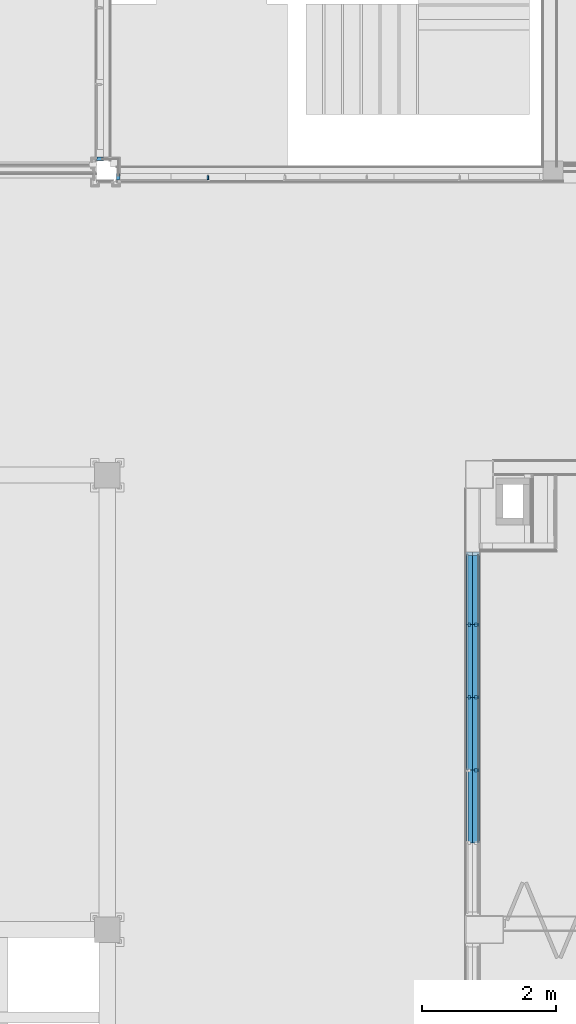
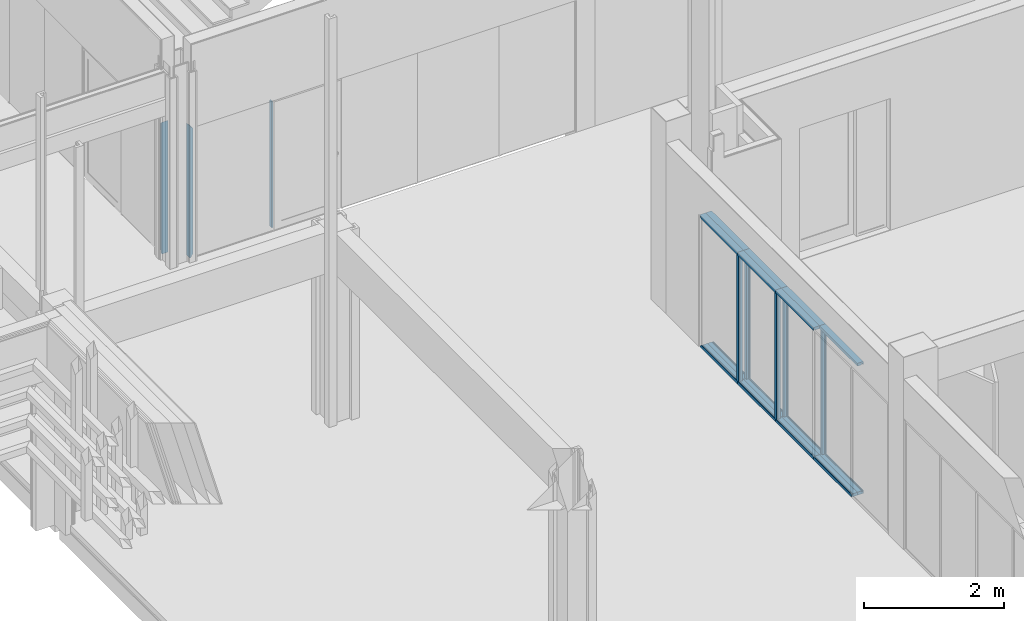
# One storey, part 3 of 139: 23 members, 4 elements without a shape of their own.
"""IFC2X3 building model written with IfcOpenShell, lengths in millimetres."""

from ifc_helpers import new_model, entity, si_unit, converted_unit, derived_unit, money_unit, direction, frame, origin_with_axes, place, context, subcontext, project, spatial, faceted_brep, source, transform, mapped, material, type_object, element, aggregate, save


model = new_model("IFC2X3")

# Units and contexts
model_context = context("Model", 3, precision=0.01, world=origin_with_axes(), true_north=direction((0.0, 1.0)))
body_context = subcontext(model_context, "Body", "Model", "MODEL_VIEW")
ifc_project = project(units=[si_unit("LENGTHUNIT", "METRE", prefix="MILLI"), si_unit("AREAUNIT", "SQUARE_METRE"), si_unit("VOLUMEUNIT", "CUBIC_METRE"), converted_unit("PLANEANGLEUNIT", "DEGREE", entity("IfcPlaneAngleMeasure", 0.0174532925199), si_unit("PLANEANGLEUNIT", "RADIAN"), dimensions=[0, 0, 0, 0, 0, 0, 0]), money_unit("EUR"), converted_unit("TIMEUNIT", "Year", entity("IfcTimeMeasure", 31556926.0), si_unit("TIMEUNIT", "SECOND"), dimensions=[0, 0, 1, 0, 0, 0, 0]), si_unit("MASSUNIT", "GRAM", prefix="KILO"), si_unit("THERMODYNAMICTEMPERATUREUNIT", "DEGREE_CELSIUS"), si_unit("LUMINOUSINTENSITYUNIT", "LUMEN"), si_unit("ENERGYUNIT", "JOULE", prefix="MEGA"), derived_unit("THERMALCONDUCTANCEUNIT", [(si_unit("POWERUNIT", "WATT"), 1), (si_unit("LENGTHUNIT", "METRE"), -1), (si_unit("THERMODYNAMICTEMPERATUREUNIT", "KELVIN"), -1)]), derived_unit("SPECIFICHEATCAPACITYUNIT", [(si_unit("ENERGYUNIT", "JOULE"), 1), (si_unit("MASSUNIT", "GRAM", prefix="KILO"), -1), (si_unit("THERMODYNAMICTEMPERATUREUNIT", "KELVIN"), -1)]), derived_unit("MASSDENSITYUNIT", [(si_unit("MASSUNIT", "GRAM", prefix="KILO"), 1), (si_unit("VOLUMEUNIT", "CUBIC_METRE"), -1)])], contexts=[model_context])

# Site, building, storey
site_placement = place(None, origin_with_axes())
site = spatial("IfcSite", under=ifc_project, at=site_placement, Name="Kolde pst 67a", CompositionType="ELEMENT")
building_placement = place(site_placement, origin_with_axes())
building = spatial("IfcBuilding", under=site, at=building_placement, Name="Riigigümnaasium", CompositionType="ELEMENT")
storey_placement = place(building_placement, frame((0.0, 0.0, 4600.0), z_axis=(0.0, 0.0, 1.0), x_axis=(1.0, 0.0, 0.0)))
storey = spatial("IfcBuildingStorey", under=building, at=storey_placement, Name="2. korrus", CompositionType="ELEMENT", Elevation=4600.0)

# Curtain wall, member
curtain_wall_type = type_object("IfcCurtainWallType", Name="Curtain Wall Type", PredefinedType="NOTDEFINED")
curtain_wall_1_placement = place(storey_placement, frame((52619.9941222, 32759.7635899, -0.000120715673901), z_axis=(0.0, 0.0, 1.0), x_axis=(1.0, 0.0, 0.0)))
curtain_wall_1 = element("IfcCurtainWall", 1, at=curtain_wall_1_placement, inside=storey, type_object=curtain_wall_type, Name="KLAASSEIN")
ifc_material_1 = material(Name="_GENEERILINE MATERJAL")
member_type_1 = type_object("IfcMemberType", Name="Boundary Frame 50 x 100", PredefinedType="MEMBER")
shared_shape_1 = source(origin_with_axes(), body_context, "Body", "Brep", [
    faceted_brep([(50.0, -10.0, 50.0), (50.0, -10.0, 2250.0), (50.0, -100.0, 2250.0), (50.0, -100.0, 50.0), (25.0, -10.0, 2275.0), (25.0, -10.0, 25.0), (25.0, 0.0, 2275.0), (0.0, 0.0, 2300.0), (0.0, -100.0, 2300.0), (0.0, -100.0, 0.0), (0.0, 0.0, 0.0), (25.0, 0.0, 25.0)], [[[0, 1, 2, 3]], [[4, 1, 0, 5]], [[4, 6, 7, 8, 2, 1]], [[2, 8, 9, 3]], [[5, 0, 3, 9, 10, 11]], [[11, 6, 4, 5]], [[6, 11, 10, 7]], [[8, 7, 10, 9]]]),
])
member_1_placement = place(curtain_wall_1_placement, frame((0.0, -3835.89186022, 0.0), z_axis=(0.0, 0.0, 1.0), x_axis=(0.0, 1.0, 0.0)))
member_1 = element("IfcMember", 2, at=member_1_placement, type_object=member_type_1, material=ifc_material_1, Name="RF RAAM SERV-597", ObjectType="MEMBER", context=body_context, shape_type="MappedRepresentation", body=[
    mapped(shared_shape_1, transform((0.0, 0.0, 0.0))),
])
aggregate(curtain_wall_1, [member_1])

# Curtain wall, members
curtain_wall_2_placement = place(storey_placement, frame((58309.948762, 21457.499953, -9.60191526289e-05), z_axis=(0.0, 0.0, 1.0), x_axis=(1.0, 0.0, 0.0)))
curtain_wall_2 = element("IfcCurtainWall", 3, at=curtain_wall_2_placement, inside=storey, type_object=curtain_wall_type, Name="KLAASSEIN")
ifc_material_2 = material(Name="_METALL - alumiinium")
member_type_2 = type_object("IfcMemberType", Name="Mullion Frame 50 x 70", PredefinedType="MEMBER")
shared_shape_2 = source(origin_with_axes(), body_context, "Body", "Brep", [
    faceted_brep([(5.0, -10.0, 2250.00004495), (5.0, 10.0, 2250.00004495), (25.0, 10.0, 2250.00004495), (25.0, 20.0, 2250.00004495), (-25.0, 20.0, 2250.00004495), (-25.0, 10.0, 2250.00004495), (-5.0, 10.0, 2250.00004495), (-5.0, -10.0, 2250.00004495), (-25.0, -10.0, 2250.00004495), (-25.0, -50.0, 2250.00004495), (25.0, -50.0, 2250.00004495), (25.0, -10.0, 2250.00004495), (5.0, -10.0, 50.0), (5.0, 10.0, 50.0), (25.0, 10.0, 50.0), (25.0, 20.0, 50.0), (-25.0, 20.0, 50.0), (-25.0, 10.0, 50.0), (-5.0, 10.0, 50.0), (-5.0, -10.0, 50.0), (-25.0, -10.0, 50.0), (-25.0, -50.0, 50.0), (25.0, -50.0, 50.0), (25.0, -10.0, 50.0)], [[[0, 1, 2, 3, 4, 5, 6, 7, 8, 9, 10, 11]], [[0, 12, 13, 1]], [[1, 13, 14, 2]], [[14, 15, 3, 2]], [[4, 3, 15, 16]], [[17, 5, 4, 16]], [[5, 17, 18, 6]], [[7, 6, 18, 19]], [[8, 7, 19, 20]], [[8, 20, 21, 9]], [[10, 9, 21, 22]], [[11, 10, 22, 23]], [[11, 23, 12, 0]], [[13, 12, 23, 22, 21, 20, 19, 18, 17, 16, 15, 14]]]),
])
member_2_placement = place(curtain_wall_2_placement, frame((5.93163562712e-05, 542.5, 0.0), z_axis=(0.0, 0.0, 1.0), x_axis=(1.09338902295e-07, 1.0, 0.0)))
member_2 = element("IfcMember", 4, at=member_2_placement, type_object=member_type_2, material=ifc_material_2, Name="RF RAAM VERT-282", ObjectType="MEMBER", context=body_context, shape_type="MappedRepresentation", body=[
    mapped(shared_shape_2, transform((0.0, 0.0, 0.0), x_axis=(-1.0, 0.0, 0.0), y_axis=(0.0, -1.0, 0.0), z_axis=(0.0, 0.0, 1.0))),
])
member_3_placement = place(curtain_wall_2_placement, frame((-5.93163491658e-05, -542.5, 0.0), z_axis=(0.0, 0.0, 1.0), x_axis=(1.09338902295e-07, 1.0, 0.0)))
member_3 = element("IfcMember", 5, at=member_3_placement, type_object=member_type_2, material=ifc_material_2, Name="RF RAAM VERT-283", ObjectType="MEMBER", context=body_context, shape_type="MappedRepresentation", body=[
    mapped(shared_shape_2, transform((0.0, 0.0, 0.0), x_axis=(-1.0, 0.0, 0.0), y_axis=(0.0, -1.0, 0.0), z_axis=(0.0, 0.0, 1.0))),
])
member_4_placement = place(curtain_wall_2_placement, frame((-0.000177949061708, -1627.5, 0.0), z_axis=(0.0, 0.0, 1.0), x_axis=(1.09338902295e-07, 1.0, 0.0)))
member_4 = element("IfcMember", 6, at=member_4_placement, type_object=member_type_2, material=ifc_material_2, Name="RF RAAM VERT-284", ObjectType="MEMBER", context=body_context, shape_type="MappedRepresentation", body=[
    mapped(shared_shape_2, transform((0.0, 0.0, 0.0), x_axis=(-1.0, 0.0, 0.0), y_axis=(0.0, -1.0, 0.0), z_axis=(0.0, 0.0, 1.0))),
])

curtain_wall_3_placement = place(storey_placement, frame((58149.948335, 21457.4999721, -5.87247752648e-05), z_axis=(0.0, 0.0, 1.0), x_axis=(1.0, 0.0, 0.0)))
curtain_wall_3 = element("IfcCurtainWall", 7, at=curtain_wall_3_placement, inside=storey, type_object=curtain_wall_type, Name="KLAASSEIN")
shared_shape_3 = source(origin_with_axes(), body_context, "Body", "Brep", [
    faceted_brep([(30.0, -10.0, 1085.0), (30.0, 10.0, 1085.0), (50.0, 10.0, 1085.0), (50.0, 20.0, 1085.0), (0.0, 20.0, 1085.0), (0.0, -80.0, 1085.0), (50.0, -80.0, 1085.0), (50.0, -10.0, 1085.0), (30.0, -10.0, 0.0), (30.0, 10.0, 0.0), (50.0, 10.0, 0.0), (50.0, 20.0, 0.0), (0.0, 20.0, 0.0), (0.0, -80.0, 0.0), (50.0, -80.0, 0.0), (50.0, -10.0, 0.0)], [[[0, 1, 2, 3, 4, 5, 6, 7]], [[1, 0, 8, 9]], [[10, 2, 1, 9]], [[2, 10, 11, 3]], [[12, 4, 3, 11]], [[13, 5, 4, 12]], [[14, 6, 5, 13]], [[15, 7, 6, 14]], [[0, 7, 15, 8]], [[8, 15, 14, 13, 12, 11, 10, 9]]]),
])
member_5_placement = place(curtain_wall_3_placement, frame((-1.69167435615e-06, 542.5, 0.0), z_axis=(3.11830029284e-09, -1.0, 0.0), x_axis=(0.0, 0.0, 1.0)))
member_5 = element("IfcMember", 8, at=member_5_placement, type_object=member_type_1, material=ifc_material_2, Name="RF RAAM SERV-662", ObjectType="MEMBER", context=body_context, shape_type="MappedRepresentation", body=[
    mapped(shared_shape_3, transform((0.0, 0.0, 0.0))),
])
member_6_placement = place(curtain_wall_3_placement, frame((1.69168146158e-06, -542.5, 0.0), z_axis=(3.11830684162e-09, -1.0, 0.0), x_axis=(0.0, 0.0, 1.0)))
member_6 = element("IfcMember", 9, at=member_6_placement, type_object=member_type_1, material=ifc_material_2, Name="RF RAAM SERV-663", ObjectType="MEMBER", context=body_context, shape_type="MappedRepresentation", body=[
    mapped(shared_shape_3, transform((0.0, 0.0, 0.0))),
])
member_7_placement = place(curtain_wall_3_placement, frame((5.07504438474e-06, -1627.5, 0.0), z_axis=(3.11830029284e-09, -1.0, 0.0), x_axis=(0.0, 0.0, 1.0)))
member_7 = element("IfcMember", 10, at=member_7_placement, type_object=member_type_1, material=ifc_material_2, Name="RF RAAM SERV-664", ObjectType="MEMBER", context=body_context, shape_type="MappedRepresentation", body=[
    mapped(shared_shape_3, transform((0.0, 0.0, 0.0))),
])

# Member
member_8_placement = place(curtain_wall_2_placement, frame((5.93163562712e-05, 542.5, 2300.00014663), z_axis=(-1.0933889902e-07, -1.0, 0.0), x_axis=(0.0, 0.0, 1.0)))
member_8 = element("IfcMember", 11, at=member_8_placement, type_object=member_type_1, material=ifc_material_2, Name="RF RAAM SERV-720", ObjectType="MEMBER", context=body_context, shape_type="MappedRepresentation", body=[
    mapped(shared_shape_3, transform((0.0, 0.0, 0.0), x_axis=(-1.0, 0.0, 0.0), y_axis=(0.0, -1.0, -1.0933889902e-07), z_axis=(0.0, -1.0933889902e-07, 1.0))),
])

member_9_placement = place(curtain_wall_2_placement, frame((-5.93163491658e-05, -542.5, 2300.00014663), z_axis=(-1.09338905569e-07, -1.0, 0.0), x_axis=(0.0, 0.0, 1.0)))
member_9 = element("IfcMember", 12, at=member_9_placement, type_object=member_type_1, material=ifc_material_2, Name="RF RAAM SERV-719", ObjectType="MEMBER", context=body_context, shape_type="MappedRepresentation", body=[
    mapped(shared_shape_3, transform((0.0, 0.0, 0.0), x_axis=(-1.0, 0.0, 0.0), y_axis=(0.0, -1.0, -1.09338905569e-07), z_axis=(0.0, -1.09338905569e-07, 1.0))),
])

member_10_placement = place(curtain_wall_2_placement, frame((-0.000177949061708, -1627.5, 2300.00014663), z_axis=(-1.0933889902e-07, -1.0, 0.0), x_axis=(0.0, 0.0, 1.0)))
member_10 = element("IfcMember", 13, at=member_10_placement, type_object=member_type_1, material=ifc_material_2, Name="RF RAAM SERV-718", ObjectType="MEMBER", context=body_context, shape_type="MappedRepresentation", body=[
    mapped(shared_shape_3, transform((0.0, 0.0, 0.0), x_axis=(-1.0, 0.0, 0.0), y_axis=(0.0, -1.0, -1.0933889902e-07), z_axis=(0.0, -1.0933889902e-07, 1.0))),
])

shared_shape_4 = source(origin_with_axes(), body_context, "Body", "Brep", [
    faceted_brep([(30.0, -10.0, 1085.0), (30.0, 10.0, 1085.0), (50.0, 10.0, 1085.0), (50.0, 20.0, 1085.0), (0.0, 20.0, 1085.0), (0.0, -80.0, 1085.0), (50.0, -80.0, 1085.0), (50.0, -10.0, 1085.0), (30.0, -10.0, 30.0), (30.0, 10.0, 30.0), (50.0, 10.0, 50.0), (50.0, 20.0, 50.0), (0.0, 20.0, 0.0), (0.0, -80.0, 0.0), (50.0, -80.0, 50.0), (50.0, -10.0, 50.0)], [[[0, 1, 2, 3, 4, 5, 6, 7]], [[1, 0, 8, 9]], [[10, 2, 1, 9]], [[2, 10, 11, 3]], [[4, 3, 11, 12]], [[5, 4, 12, 13]], [[6, 5, 13, 14]], [[15, 7, 6, 14]], [[0, 7, 15, 8]], [[8, 15, 14, 13, 12, 11, 10, 9]]]),
])
member_11_placement = place(curtain_wall_3_placement, frame((-5.07503727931e-06, 1627.5, 0.0), z_axis=(3.11830684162e-09, -1.0, 0.0), x_axis=(0.0, 0.0, 1.0)))
member_11 = element("IfcMember", 14, at=member_11_placement, type_object=member_type_1, material=ifc_material_2, Name="RF RAAM SERV-661", ObjectType="MEMBER", context=body_context, shape_type="MappedRepresentation", body=[
    mapped(shared_shape_4, transform((0.0, 0.0, 0.0))),
])

member_12_placement = place(curtain_wall_2_placement, frame((0.000177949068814, 1627.5, 2300.00014663), z_axis=(-1.09338905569e-07, -1.0, 0.0), x_axis=(0.0, 0.0, 1.0)))
member_12 = element("IfcMember", 15, at=member_12_placement, type_object=member_type_1, material=ifc_material_2, Name="RF RAAM SERV-721", ObjectType="MEMBER", context=body_context, shape_type="MappedRepresentation", body=[
    mapped(shared_shape_4, transform((0.0, 0.0, 0.0), x_axis=(-1.0, 0.0, 0.0), y_axis=(0.0, -1.0, -1.09338905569e-07), z_axis=(0.0, -1.09338905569e-07, 1.0))),
])

shared_shape_5 = source(origin_with_axes(), body_context, "Body", "Brep", [
    faceted_brep([(-5.0, -10.0, 2250.0), (-25.0, -10.0, 2250.0), (-25.0, -50.0, 2250.0), (25.0, -50.0, 2250.0), (25.0, -10.0, 2250.0), (5.0, -10.0, 2250.0), (5.0, 10.0, 2250.0), (25.0, 10.0, 2250.0), (25.0, 20.0, 2250.0), (-25.0, 20.0, 2250.0), (-25.0, 10.0, 2250.0), (-5.0, 10.0, 2250.0), (-5.0, -10.0, 50.0), (-25.0, -10.0, 50.0), (-25.0, -50.0, 50.0), (25.0, -50.0, 50.0), (25.0, -10.0, 50.0), (5.0, -10.0, 50.0), (5.0, 10.0, 50.0), (25.0, 10.0, 50.0), (25.0, 20.0, 50.0), (-25.0, 20.0, 50.0), (-25.0, 10.0, 50.0), (-5.0, 10.0, 50.0)], [[[0, 1, 2, 3, 4, 5, 6, 7, 8, 9, 10, 11]], [[1, 0, 12, 13]], [[1, 13, 14, 2]], [[2, 14, 15, 3]], [[4, 3, 15, 16]], [[4, 16, 17, 5]], [[5, 17, 18, 6]], [[7, 6, 18, 19]], [[19, 20, 8, 7]], [[8, 20, 21, 9]], [[22, 10, 9, 21]], [[11, 10, 22, 23]], [[0, 11, 23, 12]], [[23, 22, 21, 20, 19, 18, 17, 16, 15, 14, 13, 12]]]),
])
member_13_placement = place(curtain_wall_3_placement, frame((-1.69167435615e-06, 542.5, 0.0), z_axis=(0.0, 0.0, 1.0), x_axis=(-3.11830356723e-09, 1.0, 0.0)))
member_13 = element("IfcMember", 16, at=member_13_placement, type_object=member_type_2, material=ifc_material_2, Name="RF RAAM VERT-282", ObjectType="MEMBER", context=body_context, shape_type="MappedRepresentation", body=[
    mapped(shared_shape_5, transform((0.0, 0.0, 0.0))),
])

member_14_placement = place(curtain_wall_3_placement, frame((1.69168146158e-06, -542.5, 0.0), z_axis=(0.0, 0.0, 1.0), x_axis=(-3.11830356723e-09, 1.0, 0.0)))
member_14 = element("IfcMember", 17, at=member_14_placement, type_object=member_type_2, material=ifc_material_2, Name="RF RAAM VERT-283", ObjectType="MEMBER", context=body_context, shape_type="MappedRepresentation", body=[
    mapped(shared_shape_5, transform((0.0, 0.0, 0.0))),
])

shared_shape_6 = source(origin_with_axes(), body_context, "Body", "Brep", [
    faceted_brep([(-30.0, -10.0, 1085.0), (-50.0, -10.0, 1085.0), (-50.0, -80.0, 1085.0), (0.0, -80.0, 1085.0), (0.0, 20.0, 1085.0), (-50.0, 20.0, 1085.0), (-50.0, 10.0, 1085.0), (-30.0, 10.0, 1085.0), (-30.0, -10.0, 30.0), (-50.0, -10.0, 50.0), (-50.0, -80.0, 50.0), (0.0, -80.0, 0.0), (0.0, 20.0, 0.0), (-50.0, 20.0, 50.0), (-50.0, 10.0, 50.0), (-30.0, 10.0, 30.0)], [[[0, 1, 2, 3, 4, 5, 6, 7]], [[0, 8, 9, 1]], [[9, 10, 2, 1]], [[2, 10, 11, 3]], [[3, 11, 12, 4]], [[4, 12, 13, 5]], [[6, 5, 13, 14]], [[14, 15, 7, 6]], [[7, 15, 8, 0]], [[8, 15, 14, 13, 12, 11, 10, 9]]]),
])
member_15_placement = place(curtain_wall_3_placement, frame((-5.07503727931e-06, 1627.5, 2300.00014663), z_axis=(3.11830684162e-09, -1.0, 0.0), x_axis=(0.0, 0.0, 1.0)))
member_15 = element("IfcMember", 18, at=member_15_placement, type_object=member_type_1, material=ifc_material_2, Name="RF RAAM SERV-671", ObjectType="MEMBER", context=body_context, shape_type="MappedRepresentation", body=[
    mapped(shared_shape_6, transform((0.0, 0.0, 0.0))),
])

member_16_placement = place(curtain_wall_2_placement, frame((0.000177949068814, 1627.5, 0.0), z_axis=(-1.09338905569e-07, -1.0, 0.0), x_axis=(0.0, 0.0, 1.0)))
member_16 = element("IfcMember", 19, at=member_16_placement, type_object=member_type_1, material=ifc_material_2, Name="RF RAAM SERV-711", ObjectType="MEMBER", context=body_context, shape_type="MappedRepresentation", body=[
    mapped(shared_shape_6, transform((0.0, 0.0, 0.0), x_axis=(-1.0, 0.0, 0.0), y_axis=(0.0, -1.0, -1.09338905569e-07), z_axis=(0.0, -1.09338905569e-07, 1.0))),
])

shared_shape_7 = source(origin_with_axes(), body_context, "Body", "Brep", [
    faceted_brep([(-30.0, -10.0, 1085.0), (-50.0, -10.0, 1085.0), (-50.0, -80.0, 1085.0), (0.0, -80.0, 1085.0), (0.0, 20.0, 1085.0), (-50.0, 20.0, 1085.0), (-50.0, 10.0, 1085.0), (-30.0, 10.0, 1085.0), (-30.0, -10.0, 0.0), (-50.0, -10.0, 0.0), (-50.0, -80.0, 0.0), (0.0, -80.0, 0.0), (0.0, 20.0, 0.0), (-50.0, 20.0, 0.0), (-50.0, 10.0, 0.0), (-30.0, 10.0, 0.0)], [[[0, 1, 2, 3, 4, 5, 6, 7]], [[0, 8, 9, 1]], [[9, 10, 2, 1]], [[10, 11, 3, 2]], [[11, 12, 4, 3]], [[12, 13, 5, 4]], [[6, 5, 13, 14]], [[14, 15, 7, 6]], [[7, 15, 8, 0]], [[8, 15, 14, 13, 12, 11, 10, 9]]]),
])
member_17_placement = place(curtain_wall_3_placement, frame((-1.69167435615e-06, 542.5, 2300.00014663), z_axis=(3.11830029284e-09, -1.0, 0.0), x_axis=(0.0, 0.0, 1.0)))
member_17 = element("IfcMember", 20, at=member_17_placement, type_object=member_type_1, material=ifc_material_2, Name="RF RAAM SERV-670", ObjectType="MEMBER", context=body_context, shape_type="MappedRepresentation", body=[
    mapped(shared_shape_7, transform((0.0, 0.0, 0.0))),
])

member_18_placement = place(curtain_wall_3_placement, frame((1.69168146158e-06, -542.5, 2300.00014663), z_axis=(3.11830684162e-09, -1.0, 0.0), x_axis=(0.0, 0.0, 1.0)))
member_18 = element("IfcMember", 21, at=member_18_placement, type_object=member_type_1, material=ifc_material_2, Name="RF RAAM SERV-669", ObjectType="MEMBER", context=body_context, shape_type="MappedRepresentation", body=[
    mapped(shared_shape_7, transform((0.0, 0.0, 0.0))),
])

aggregate(curtain_wall_3, [member_5, member_6, member_11, member_13, member_14, member_15, member_17, member_18, member_7])

member_19_placement = place(curtain_wall_2_placement, frame((5.93163562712e-05, 542.5, 0.0), z_axis=(-1.0933889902e-07, -1.0, 0.0), x_axis=(0.0, 0.0, 1.0)))
member_19 = element("IfcMember", 22, at=member_19_placement, type_object=member_type_1, material=ifc_material_2, Name="RF RAAM SERV-712", ObjectType="MEMBER", context=body_context, shape_type="MappedRepresentation", body=[
    mapped(shared_shape_7, transform((0.0, 0.0, 0.0), x_axis=(-1.0, 0.0, 0.0), y_axis=(0.0, -1.0, -1.0933889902e-07), z_axis=(0.0, -1.0933889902e-07, 1.0))),
])

member_20_placement = place(curtain_wall_2_placement, frame((-5.93163491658e-05, -542.5, 0.0), z_axis=(-1.09338905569e-07, -1.0, 0.0), x_axis=(0.0, 0.0, 1.0)))
member_20 = element("IfcMember", 23, at=member_20_placement, type_object=member_type_1, material=ifc_material_2, Name="RF RAAM SERV-713", ObjectType="MEMBER", context=body_context, shape_type="MappedRepresentation", body=[
    mapped(shared_shape_7, transform((0.0, 0.0, 0.0), x_axis=(-1.0, 0.0, 0.0), y_axis=(0.0, -1.0, -1.09338905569e-07), z_axis=(0.0, -1.09338905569e-07, 1.0))),
])

member_21_placement = place(curtain_wall_2_placement, frame((-0.000177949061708, -1627.5, 0.0), z_axis=(-1.0933889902e-07, -1.0, 0.0), x_axis=(0.0, 0.0, 1.0)))
member_21 = element("IfcMember", 24, at=member_21_placement, type_object=member_type_1, material=ifc_material_2, Name="RF RAAM SERV-714", ObjectType="MEMBER", context=body_context, shape_type="MappedRepresentation", body=[
    mapped(shared_shape_7, transform((0.0, 0.0, 0.0), x_axis=(-1.0, 0.0, 0.0), y_axis=(0.0, -1.0, -1.0933889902e-07), z_axis=(0.0, -1.0933889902e-07, 1.0))),
])

aggregate(curtain_wall_2, [member_19, member_20, member_16, member_2, member_3, member_4, member_12, member_8, member_9, member_10, member_21])

# Curtain wall, members
curtain_wall_4_placement = place(storey_placement, frame((56010.5010848, 28629.9996643, -9.132059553e-06), z_axis=(0.0, 0.0, 1.0), x_axis=(1.0, 0.0, 0.0)))
curtain_wall_4 = element("IfcCurtainWall", 25, at=curtain_wall_4_placement, inside=storey, type_object=curtain_wall_type, Name="KLAASSEIN")
shared_shape_8 = source(origin_with_axes(), body_context, "Body", "Brep", [
    faceted_brep([(-50.0, -10.0, 50.0), (-50.0, -100.0, 50.0), (-50.0, -100.0, 2250.0), (-50.0, -10.0, 2250.0), (-25.0, -10.0, 25.0), (-25.0, 0.0, 25.0), (0.0, 0.0, 0.0), (0.0, -100.0, 0.0), (0.0, -100.0, 2300.0), (-25.0, -10.0, 2275.0), (0.0, 0.0, 2300.0), (-25.0, 0.0, 2275.0)], [[[0, 1, 2, 3]], [[4, 5, 6, 7, 1, 0]], [[2, 1, 7, 8]], [[9, 3, 2, 8, 10, 11]], [[9, 4, 0, 3]], [[5, 4, 9, 11]], [[11, 10, 6, 5]], [[8, 7, 6, 10]]]),
])
member_22_placement = place(curtain_wall_4_placement, frame((-3090.50673033, 0.0, 0.0), z_axis=(0.0, 0.0, 1.0), x_axis=(1.0, 0.0, 0.0)))
member_22 = element("IfcMember", 26, at=member_22_placement, type_object=member_type_1, material=ifc_material_1, Name="RF RAAM SERV-530", ObjectType="MEMBER", context=body_context, shape_type="MappedRepresentation", body=[
    mapped(shared_shape_8, transform((0.0, 0.0, 0.0), x_axis=(-1.0, 0.0, 0.0), y_axis=(0.0, -1.0, 0.0), z_axis=(0.0, 0.0, 1.0))),
])
member_type_3 = type_object("IfcMemberType", Name="Mullion Frame 20 x 70", PredefinedType="MEMBER")
shared_shape_9 = source(origin_with_axes(), body_context, "Body", "Brep", [
    faceted_brep([(0.0, -10.0, 50.0), (-10.0, -10.0, 50.0), (-10.0, -10.0, 2250.0), (0.0, -10.0, 2250.0), (10.0, -10.0, 2250.0), (10.0, -10.0, 50.0), (10.0, -70.0, 50.0), (-10.0, -70.0, 50.0), (-10.0, -70.0, 2250.0), (10.0, -70.0, 2250.0)], [[[0, 1, 2, 3, 4, 5]], [[5, 6, 7, 1, 0]], [[2, 1, 7, 8]], [[3, 2, 8, 9, 4]], [[4, 9, 6, 5]], [[9, 8, 7, 6]]]),
])
member_23_placement = place(curtain_wall_4_placement, frame((-1730.56261823, 0.0, 0.0), z_axis=(0.0, 0.0, 1.0), x_axis=(1.0, 0.0, 0.0)))
member_23 = element("IfcMember", 27, at=member_23_placement, type_object=member_type_3, material=ifc_material_1, Name="RF RAAM VERT-397", ObjectType="MEMBER", context=body_context, shape_type="MappedRepresentation", body=[
    mapped(shared_shape_9, transform((0.0, 0.0, 0.0), x_axis=(-1.0, 0.0, 0.0), y_axis=(0.0, -1.0, 0.0), z_axis=(0.0, 0.0, 1.0))),
])
aggregate(curtain_wall_4, [member_22, member_23])

save(model, "model.ifc")
